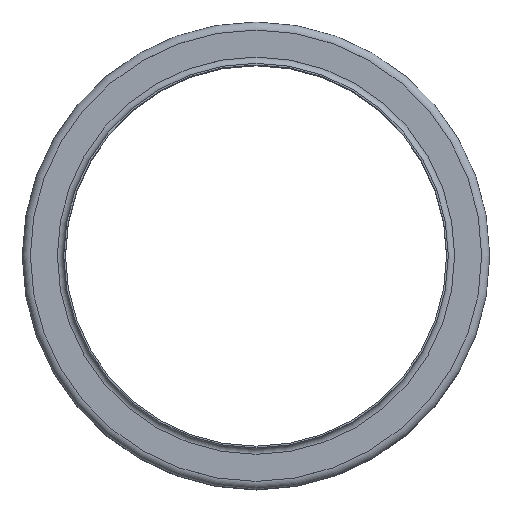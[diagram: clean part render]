
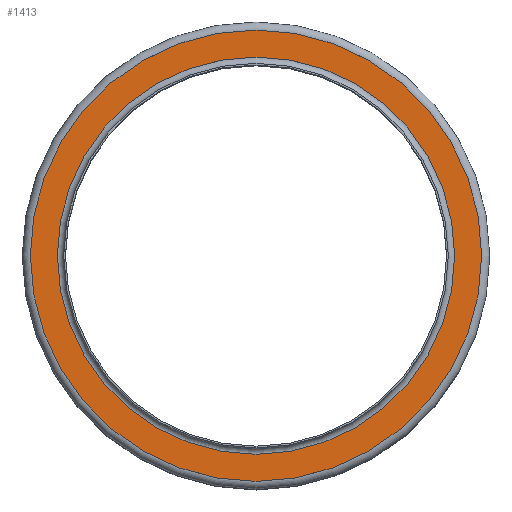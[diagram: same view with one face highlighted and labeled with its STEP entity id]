
A CAD part, top view. The second image highlights one B-rep face of the part: STEP entity #1413.
In plain terms, the highlighted planar face has unit normal (0, 0, 1).
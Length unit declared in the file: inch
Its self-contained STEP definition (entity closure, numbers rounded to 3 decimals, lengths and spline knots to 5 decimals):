
#127=FACE_BOUND('',#381,.T.);
#226=FACE_OUTER_BOUND('',#380,.T.);
#380=EDGE_LOOP('',(#1105));
#381=EDGE_LOOP('',(#1106));
#542=CIRCLE('',#1682,3.4525);
#543=CIRCLE('',#1684,3.9225);
#655=VERTEX_POINT('',#2578);
#656=VERTEX_POINT('',#2582);
#808=EDGE_CURVE('',#655,#655,#542,.T.);
#809=EDGE_CURVE('',#656,#656,#543,.T.);
#1105=ORIENTED_EDGE('',*,*,#809,.F.);
#1106=ORIENTED_EDGE('',*,*,#808,.T.);
#1203=PLANE('',#1683);
#1413=ADVANCED_FACE('',(#226,#127),#1203,.T.);
#1682=AXIS2_PLACEMENT_3D('',#2580,#2178,#2179);
#1683=AXIS2_PLACEMENT_3D('',#2581,#2180,#2181);
#1684=AXIS2_PLACEMENT_3D('',#2583,#2182,#2183);
#2178=DIRECTION('center_axis',(0.,0.,-1.));
#2179=DIRECTION('ref_axis',(1.,0.,0.));
#2180=DIRECTION('center_axis',(0.,0.,1.));
#2181=DIRECTION('ref_axis',(1.,0.,0.));
#2182=DIRECTION('center_axis',(0.,0.,-1.));
#2183=DIRECTION('ref_axis',(1.,0.,0.));
#2578=CARTESIAN_POINT('',(3.4525,0.,-0.11));
#2580=CARTESIAN_POINT('Origin',(0.,0.,-0.11));
#2581=CARTESIAN_POINT('Origin',(0.,3.9225,-0.11));
#2582=CARTESIAN_POINT('',(3.9225,0.,-0.11));
#2583=CARTESIAN_POINT('Origin',(0.,0.,-0.11));
